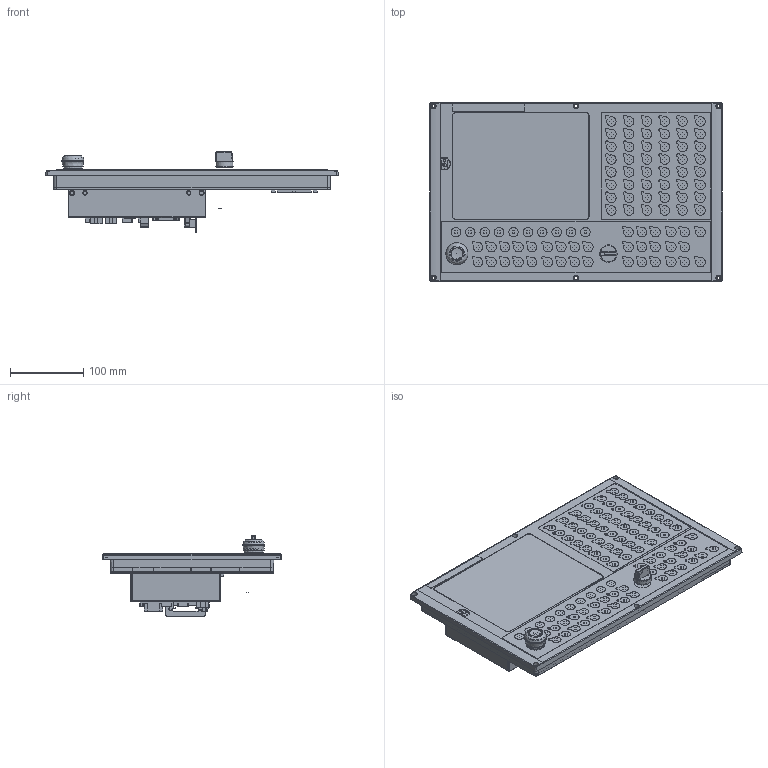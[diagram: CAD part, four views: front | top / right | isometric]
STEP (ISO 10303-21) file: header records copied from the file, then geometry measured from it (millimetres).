
FILE_DESCRIPTION (( 'STEP AP214' ), '1' );
FILE_NAME ('零件1^新款8寸系统+辅助板塑框.STEP', '2025-04-15T08:47:25', ( '' ), ( '' ), 'SwSTEP 2.0', 'SolidWorks 2018', '' );
FILE_SCHEMA (( 'AUTOMOTIVE_DESIGN' ));
Length unit declared in the file: millimetre
Products named in the file (1): 零件1^新款8寸系统+辅助板塑框
Bounding box: 400 x 245 x 109.91 mm (x, y, z)
Volume: 2778102.5 mm3; surface area: 439293.3 mm2
Topology: 3 solids, 4 shells, 3895 faces, 9979 edges, 6461 vertices
Faces by surface type: plane 2706, cylinder 934, cone 199, bspline 52, torus 4
Full cylindrical faces by diameter (mm): 0.686 x26, 1.207 x8, 1.8 x1, 2.5 x6, 2.6 x3, 3 x2, 3.497 x1, 3.5 x5, 4.5 x9, 5.5 x2, 7.3 x6, 12.2 x1, 13 x10, 20 x1, 20.9 x1, 23 x1, 24.8 x1, 25.6 x1, 26 x1
Entity records: 121421 total; most frequent: CARTESIAN_POINT 29513, ORIENTED_EDGE 19574, DIRECTION 17636, EDGE_CURVE 9787, LINE 6674, VECTOR 6674, VERTEX_POINT 6407, AXIS2_PLACEMENT_3D 5481
